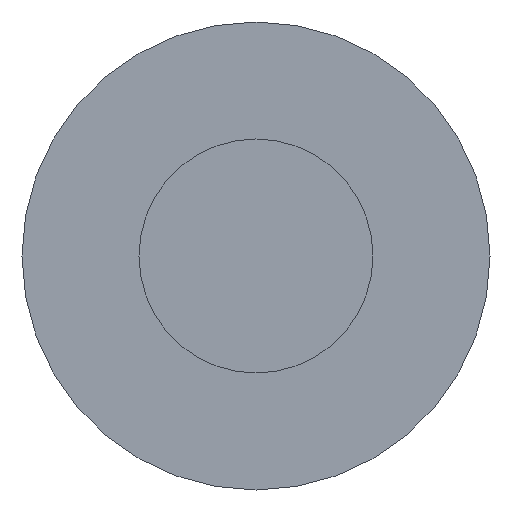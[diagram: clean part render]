
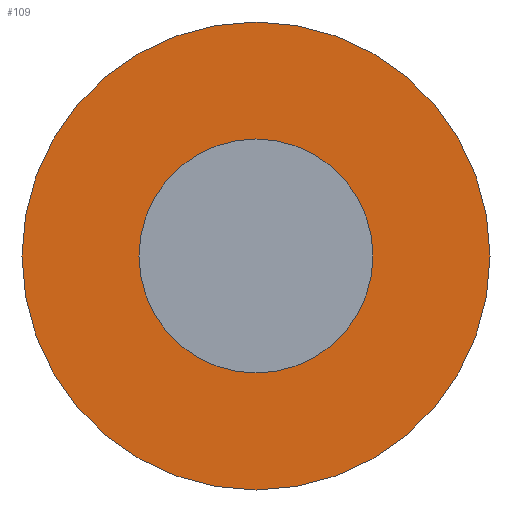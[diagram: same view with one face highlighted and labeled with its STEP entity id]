
A CAD part, left-side view. The second image highlights one B-rep face of the part: STEP entity #109.
In plain terms, the highlighted planar face has unit normal (-1, 0, 0).
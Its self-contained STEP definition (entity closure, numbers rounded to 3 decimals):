
#31 = CYLINDRICAL_SURFACE('',#32,5.);
#32 = AXIS2_PLACEMENT_3D('',#33,#34,#35);
#33 = CARTESIAN_POINT('',(33.,0.,24.));
#34 = DIRECTION('',(1.,0.,0.));
#35 = DIRECTION('',(-0.,0.,1.));
#56 = VERTEX_POINT('',#57);
#57 = CARTESIAN_POINT('',(33.,0.,29.));
#78 = EDGE_CURVE('',#56,#56,#79,.T.);
#79 = SURFACE_CURVE('',#80,(#85,#92),.PCURVE_S1.);
#80 = CIRCLE('',#81,5.);
#81 = AXIS2_PLACEMENT_3D('',#82,#83,#84);
#82 = CARTESIAN_POINT('',(33.,0.,24.));
#83 = DIRECTION('',(1.,0.,0.));
#84 = DIRECTION('',(-0.,0.,1.));
#85 = PCURVE('',#31,#86);
#86 = DEFINITIONAL_REPRESENTATION('',(#87),#91);
#87 = LINE('',#88,#89);
#88 = CARTESIAN_POINT('',(0.,0.));
#89 = VECTOR('',#90,1.);
#90 = DIRECTION('',(1.,0.));
#91 = ( GEOMETRIC_REPRESENTATION_CONTEXT(2) 
PARAMETRIC_REPRESENTATION_CONTEXT() REPRESENTATION_CONTEXT('2D SPACE',''
  ) );
#92 = PCURVE('',#93,#98);
#93 = PLANE('',#94);
#94 = AXIS2_PLACEMENT_3D('',#95,#96,#97);
#95 = CARTESIAN_POINT('',(33.,0.,24.));
#96 = DIRECTION('',(1.,0.,0.));
#97 = DIRECTION('',(-0.,0.,1.));
#98 = DEFINITIONAL_REPRESENTATION('',(#99),#103);
#99 = CIRCLE('',#100,5.);
#100 = AXIS2_PLACEMENT_2D('',#101,#102);
#101 = CARTESIAN_POINT('',(0.,0.));
#102 = DIRECTION('',(1.,0.));
#103 = ( GEOMETRIC_REPRESENTATION_CONTEXT(2) 
PARAMETRIC_REPRESENTATION_CONTEXT() REPRESENTATION_CONTEXT('2D SPACE',''
  ) );
#109 = ADVANCED_FACE('',(#110,#113),#93,.F.);
#110 = FACE_BOUND('',#111,.F.);
#111 = EDGE_LOOP('',(#112));
#112 = ORIENTED_EDGE('',*,*,#78,.T.);
#113 = FACE_BOUND('',#114,.F.);
#114 = EDGE_LOOP('',(#115));
#115 = ORIENTED_EDGE('',*,*,#116,.F.);
#116 = EDGE_CURVE('',#117,#117,#119,.T.);
#117 = VERTEX_POINT('',#118);
#118 = CARTESIAN_POINT('',(33.,0.,26.5));
#119 = SURFACE_CURVE('',#120,(#125,#132),.PCURVE_S1.);
#120 = CIRCLE('',#121,2.5);
#121 = AXIS2_PLACEMENT_3D('',#122,#123,#124);
#122 = CARTESIAN_POINT('',(33.,0.,24.));
#123 = DIRECTION('',(1.,0.,0.));
#124 = DIRECTION('',(-0.,0.,1.));
#125 = PCURVE('',#93,#126);
#126 = DEFINITIONAL_REPRESENTATION('',(#127),#131);
#127 = CIRCLE('',#128,2.5);
#128 = AXIS2_PLACEMENT_2D('',#129,#130);
#129 = CARTESIAN_POINT('',(0.,0.));
#130 = DIRECTION('',(1.,0.));
#131 = ( GEOMETRIC_REPRESENTATION_CONTEXT(2) 
PARAMETRIC_REPRESENTATION_CONTEXT() REPRESENTATION_CONTEXT('2D SPACE',''
  ) );
#132 = PCURVE('',#133,#138);
#133 = CYLINDRICAL_SURFACE('',#134,2.5);
#134 = AXIS2_PLACEMENT_3D('',#135,#136,#137);
#135 = CARTESIAN_POINT('',(26.9,0.,24.));
#136 = DIRECTION('',(1.,0.,0.));
#137 = DIRECTION('',(-0.,0.,1.));
#138 = DEFINITIONAL_REPRESENTATION('',(#139),#143);
#139 = LINE('',#140,#141);
#140 = CARTESIAN_POINT('',(0.,6.1));
#141 = VECTOR('',#142,1.);
#142 = DIRECTION('',(1.,0.));
#143 = ( GEOMETRIC_REPRESENTATION_CONTEXT(2) 
PARAMETRIC_REPRESENTATION_CONTEXT() REPRESENTATION_CONTEXT('2D SPACE',''
  ) );
